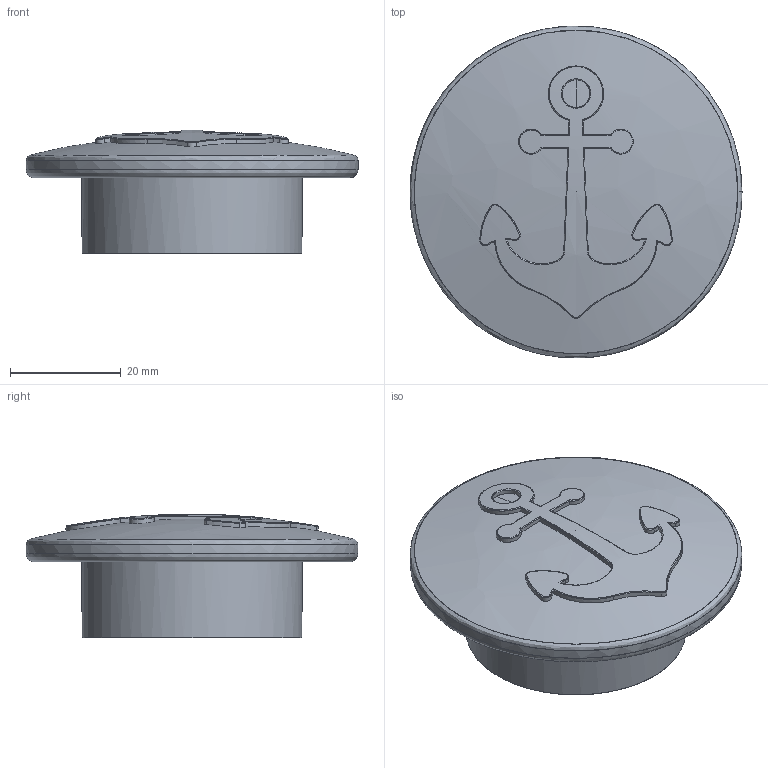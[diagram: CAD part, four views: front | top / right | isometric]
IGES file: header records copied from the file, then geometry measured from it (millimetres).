
Start section: C
Global section: file name: 8262-60.igs; native system: By Siemens PLM Incorporated; preprocessor: XPlus GENERIC/IGES 16.0.42; author: Author; organization: Title; date: 20230831.134000; units: millimetre
Bounding box: 60 x 59.94 x 22.4 mm (x, y, z)
Surface area: 11307.2 mm2 (no closed solid volume)
Topology: 0 solids, 0 shells, 99 faces, 598 edges, 596 vertices
Faces by surface type: bspline 99
